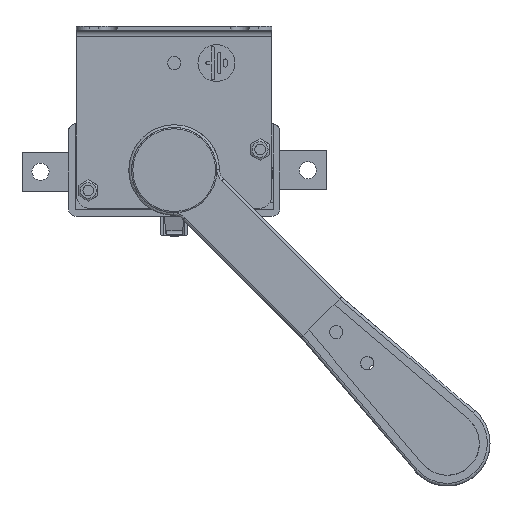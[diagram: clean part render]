
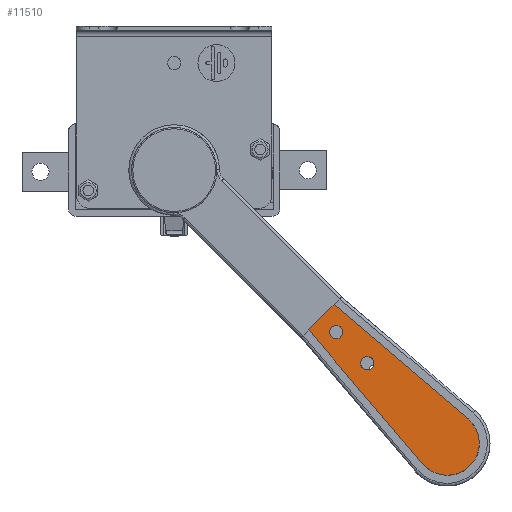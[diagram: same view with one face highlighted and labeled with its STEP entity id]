
A CAD part, left-side view. The second image highlights one B-rep face of the part: STEP entity #11510.
In plain terms, the highlighted planar face has unit normal (-1, 0, 0) as drawn and (0, 0, -1) by its records, which use the part's own axes.
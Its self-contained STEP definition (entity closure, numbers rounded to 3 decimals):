
#373 = CARTESIAN_POINT ( 'NONE',  ( -75.6, 0., -3.024 ) ) ;
#1216 = CIRCLE ( 'NONE', #6102, 12.096 ) ;
#1238 = CARTESIAN_POINT ( 'NONE',  ( -16.128, 0., -3.024 ) ) ;
#1649 = EDGE_CURVE ( 'NONE', #24702, #30925, #16098, .T. ) ;
#2497 = ORIENTED_EDGE ( 'NONE', *, *, #24932, .F. ) ;
#2558 = EDGE_CURVE ( 'NONE', #11924, #13342, #35429, .T. ) ;
#2936 = AXIS2_PLACEMENT_3D ( 'NONE', #28803, #35653, #9518 ) ;
#3413 = EDGE_LOOP ( 'NONE', ( #20611, #25033 ) ) ;
#3730 = AXIS2_PLACEMENT_3D ( 'NONE', #38260, #42046, #31882 ) ;
#4191 = CARTESIAN_POINT ( 'NONE',  ( -83.563, 6.799, -3.024 ) ) ;
#4843 = LINE ( 'NONE', #26129, #29886 ) ;
#5911 = EDGE_CURVE ( 'NONE', #17888, #36606, #13003, .T. ) ;
#6102 = AXIS2_PLACEMENT_3D ( 'NONE', #1238, #7853, #11249 ) ;
#6312 = ORIENTED_EDGE ( 'NONE', *, *, #39968, .F. ) ;
#6586 = DIRECTION ( 'NONE',  ( -0.997, -0.079, 0. ) ) ;
#7274 = CARTESIAN_POINT ( 'NONE',  ( -83.563, -6.799, -3.024 ) ) ;
#7376 = DIRECTION ( 'NONE',  ( -1., 0., 0. ) ) ;
#7853 = DIRECTION ( 'NONE',  ( 0., 0., 1. ) ) ;
#9518 = DIRECTION ( 'NONE',  ( -1., 0., 0. ) ) ;
#10669 = AXIS2_PLACEMENT_3D ( 'NONE', #373, #39876, #7376 ) ;
#11249 = DIRECTION ( 'NONE',  ( 1., 0., 0. ) ) ;
#11510 = ADVANCED_FACE ( 'NONE', ( #32872, #36470, #17602 ), #18229, .T. ) ;
#11924 = VERTEX_POINT ( 'NONE', #19163 ) ;
#12507 = VECTOR ( 'NONE', #39077, 1000. ) ;
#12784 = CARTESIAN_POINT ( 'NONE',  ( -56.428, 0., -3.024 ) ) ;
#13003 = CIRCLE ( 'NONE', #15710, 2.52 ) ;
#13342 = VERTEX_POINT ( 'NONE', #34554 ) ;
#14140 = CARTESIAN_POINT ( 'NONE',  ( -61.468, 0., -3.024 ) ) ;
#15053 = VECTOR ( 'NONE', #36895, 1000. ) ;
#15088 = DIRECTION ( 'NONE',  ( 0., 0., -1. ) ) ;
#15314 = CIRCLE ( 'NONE', #10669, 2.52 ) ;
#15710 = AXIS2_PLACEMENT_3D ( 'NONE', #34641, #15088, #18416 ) ;
#16098 = LINE ( 'NONE', #4191, #15053 ) ;
#16608 = VERTEX_POINT ( 'NONE', #21986 ) ;
#17602 = FACE_OUTER_BOUND ( 'NONE', #39647, .T. ) ;
#17888 = VERTEX_POINT ( 'NONE', #12784 ) ;
#18229 = PLANE ( 'NONE',  #3730 ) ;
#18416 = DIRECTION ( 'NONE',  ( -1., 0., 0. ) ) ;
#18780 = CARTESIAN_POINT ( 'NONE',  ( -75.6, 0., -3.024 ) ) ;
#19163 = CARTESIAN_POINT ( 'NONE',  ( -73.08, 0., -3.024 ) ) ;
#19314 = EDGE_CURVE ( 'NONE', #36606, #17888, #42228, .T. ) ;
#20611 = ORIENTED_EDGE ( 'NONE', *, *, #5911, .F. ) ;
#21380 = ORIENTED_EDGE ( 'NONE', *, *, #32026, .F. ) ;
#21986 = CARTESIAN_POINT ( 'NONE',  ( -17.082, 12.058, -3.024 ) ) ;
#23210 = ORIENTED_EDGE ( 'NONE', *, *, #35479, .F. ) ;
#24702 = VERTEX_POINT ( 'NONE', #35689 ) ;
#24932 = EDGE_CURVE ( 'NONE', #32985, #16608, #1216, .T. ) ;
#25033 = ORIENTED_EDGE ( 'NONE', *, *, #19314, .F. ) ;
#26129 = CARTESIAN_POINT ( 'NONE',  ( -83.563, 6.799, -3.024 ) ) ;
#28114 = CARTESIAN_POINT ( 'NONE',  ( -17.082, -12.058, -3.024 ) ) ;
#28803 = CARTESIAN_POINT ( 'NONE',  ( -58.948, 0., -3.024 ) ) ;
#29011 = DIRECTION ( 'NONE',  ( 0., 0., -1. ) ) ;
#29370 = AXIS2_PLACEMENT_3D ( 'NONE', #18780, #29011, #38525 ) ;
#29886 = VECTOR ( 'NONE', #6586, 1000. ) ;
#30925 = VERTEX_POINT ( 'NONE', #7274 ) ;
#31482 = CARTESIAN_POINT ( 'NONE',  ( -17.082, -12.058, -3.024 ) ) ;
#31882 = DIRECTION ( 'NONE',  ( 1., 0., 0. ) ) ;
#32026 = EDGE_CURVE ( 'NONE', #30925, #32985, #32455, .T. ) ;
#32455 = LINE ( 'NONE', #28114, #12507 ) ;
#32872 = FACE_BOUND ( 'NONE', #37006, .T. ) ;
#32985 = VERTEX_POINT ( 'NONE', #31482 ) ;
#34554 = CARTESIAN_POINT ( 'NONE',  ( -78.12, 0., -3.024 ) ) ;
#34641 = CARTESIAN_POINT ( 'NONE',  ( -58.948, 0., -3.024 ) ) ;
#35429 = CIRCLE ( 'NONE', #29370, 2.52 ) ;
#35479 = EDGE_CURVE ( 'NONE', #13342, #11924, #15314, .T. ) ;
#35653 = DIRECTION ( 'NONE',  ( 0., 0., -1. ) ) ;
#35689 = CARTESIAN_POINT ( 'NONE',  ( -83.563, 6.799, -3.024 ) ) ;
#36470 = FACE_BOUND ( 'NONE', #3413, .T. ) ;
#36606 = VERTEX_POINT ( 'NONE', #14140 ) ;
#36895 = DIRECTION ( 'NONE',  ( 0., -1., 0. ) ) ;
#37006 = EDGE_LOOP ( 'NONE', ( #41677, #23210 ) ) ;
#38260 = CARTESIAN_POINT ( 'NONE',  ( -16.128, 0., -3.024 ) ) ;
#38525 = DIRECTION ( 'NONE',  ( -1., 0., 0. ) ) ;
#39077 = DIRECTION ( 'NONE',  ( 0.997, -0.079, 0. ) ) ;
#39647 = EDGE_LOOP ( 'NONE', ( #6312, #2497, #21380, #40612 ) ) ;
#39876 = DIRECTION ( 'NONE',  ( 0., 0., -1. ) ) ;
#39968 = EDGE_CURVE ( 'NONE', #16608, #24702, #4843, .T. ) ;
#40612 = ORIENTED_EDGE ( 'NONE', *, *, #1649, .F. ) ;
#41677 = ORIENTED_EDGE ( 'NONE', *, *, #2558, .F. ) ;
#42046 = DIRECTION ( 'NONE',  ( 0., 0., -1. ) ) ;
#42228 = CIRCLE ( 'NONE', #2936, 2.52 ) ;
